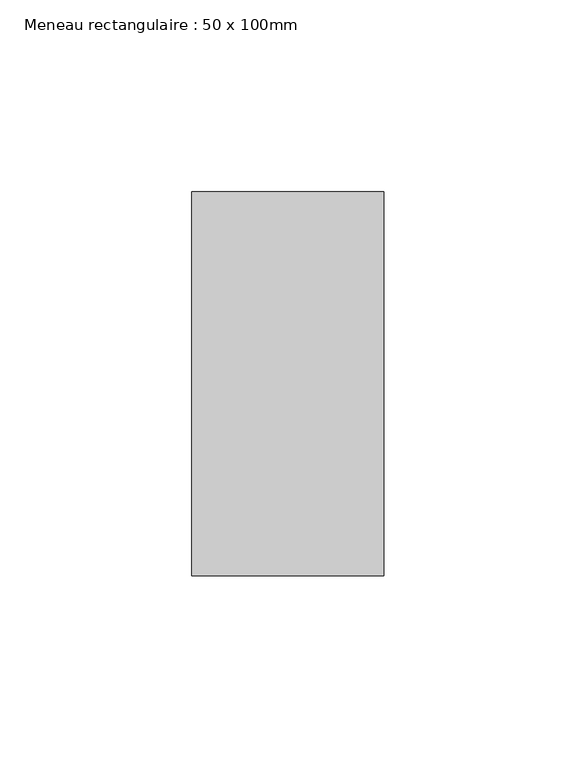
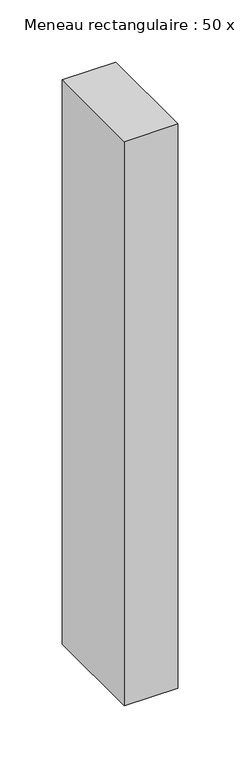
"""IFC4 building model written with IfcOpenShell, lengths in millimetres: member geometry, Meneau rectangulaire : 50 x 100mm."""

import ifcopenshell
import ifcopenshell.guid

model = None  # the IFC model being written
_history = None  # IfcOwnerHistory: only IFC2X3 demands one
_inside = {}  # id of a spatial element -> (the spatial element, [elements in it])
_under = {}  # id of a project, library or spatial element -> (it, [spatial elements below it])
_declared = {}  # id of a project -> (the project, [libraries it declares])
_typed = {}  # id of a type object -> (the type object, [elements of that type])
_made_of = {}  # id of a material, layer set ... -> (it, [elements and type objects made of it])


def new_model(schema):
    """Start an empty IFC model of exactly this schema.

    Asked for "IFC4X3", IfcOpenShell would pick the latest addendum, in which some entities
    have other attributes; the version numbers below select the first issue.
    IFC2X3 requires an IfcOwnerHistory on every rooted entity: one is made here for all.
    """
    global model, _history
    if schema == "IFC4X3":
        model = ifcopenshell.file(schema_version=(4, 3, 0, 0))
    else:
        model = ifcopenshell.file(schema=schema)
    _inside.clear()
    _under.clear()
    _declared.clear()
    _typed.clear()
    _made_of.clear()
    _history = None
    if model.schema == "IFC2X3":
        org = make("IfcOrganization", Name="unknown")
        user = make(
            "IfcPersonAndOrganization",
            ThePerson=make("IfcPerson", FamilyName="unknown"),
            TheOrganization=org,
        )
        app = make(
            "IfcApplication",
            ApplicationDeveloper=org,
            Version="unknown",
            ApplicationFullName="unknown",
            ApplicationIdentifier="unknown",
        )
        _history = make(
            "IfcOwnerHistory",
            OwningUser=user,
            OwningApplication=app,
            ChangeAction="ADDED",
            CreationDate=0,
        )
    return model


def make(cls, **values):
    """One entity of the class cls with the attributes given. An attribute that is None is left unset."""
    return model.create_entity(
        cls, **{name: value for name, value in values.items() if value is not None}
    )


def rooted(cls, **values):
    """An entity with a GlobalId (a new one), such as an element, a storey or a relation."""
    return make(cls, GlobalId=ifcopenshell.guid.new(), OwnerHistory=_history, **values)


def si_unit(unit_type, name, prefix=None):
    """IfcSIUnit, for example si_unit("LENGTHUNIT", "METRE", prefix="MILLI")."""
    return make("IfcSIUnit", UnitType=unit_type, Prefix=prefix, Name=name)


def assignment(units):
    """IfcUnitAssignment: the units of a project."""
    return None if units is None else make("IfcUnitAssignment", Units=units)


def point(xyz):
    """IfcCartesianPoint."""
    return None if xyz is None else make("IfcCartesianPoint", Coordinates=xyz)


def direction(xyz):
    """IfcDirection."""
    return None if xyz is None else make("IfcDirection", DirectionRatios=xyz)


def frame(location, z_axis=None, x_axis=None):
    """IfcAxis2Placement3D, a coordinate frame: its origin and axes. An axis left out is left unset."""
    return make(
        "IfcAxis2Placement3D",
        Location=point(location),
        Axis=direction(z_axis),
        RefDirection=direction(x_axis),
    )


def origin():
    """The frame at (0, 0, 0) with its axes left unset."""
    return frame((0.0, 0.0, 0.0))


def place(relative_to, where):
    """IfcLocalPlacement: puts the frame where relative to a parent placement (None: the world)."""
    return make(
        "IfcLocalPlacement", PlacementRelTo=relative_to, RelativePlacement=where
    )


def context(
    kind, dimensions, precision=None, world=None, true_north=None, identifier=None
):
    """IfcGeometricRepresentationContext, for example the 3D "Model" context."""
    return make(
        "IfcGeometricRepresentationContext",
        ContextIdentifier=identifier,
        ContextType=kind,
        CoordinateSpaceDimension=dimensions,
        Precision=precision,
        WorldCoordinateSystem=world,
        TrueNorth=true_north,
    )


def project(units=None, contexts=None):
    """IfcProject with its units and contexts."""
    return rooted(
        "IfcProject",
        Name="project",
        RepresentationContexts=contexts,
        UnitsInContext=assignment(units),
    )


def spatial(cls, under=None, at=None, **own):
    """A site, building, storey or space (cls), placed at a placement, below another one or the project."""
    s = rooted(cls, ObjectPlacement=at, **own)
    if under is not None:
        _under.setdefault(under.id(), (under, []))[1].append(s)
    return s


def polyline(points):
    """IfcPolyline through the points."""
    return make("IfcPolyline", Points=[point(p) for p in points])


def outline(outer, holes=None, kind="AREA"):
    """IfcArbitraryClosedProfileDef: a profile drawn as a closed curve; with holes, ...WithVoids."""
    if holes is None:
        return make("IfcArbitraryClosedProfileDef", ProfileType=kind, OuterCurve=outer)
    return make(
        "IfcArbitraryProfileDefWithVoids",
        ProfileType=kind,
        OuterCurve=outer,
        InnerCurves=holes,
    )


def extrude(swept, where, along, depth):
    """IfcExtrudedAreaSolid: the profile swept, set in the frame where, extruded along a direction by depth."""
    return make(
        "IfcExtrudedAreaSolid",
        SweptArea=swept,
        Position=where,
        ExtrudedDirection=direction(along),
        Depth=depth,
    )


def shape(context_of_items, identifier, shape_type, items):
    """IfcShapeRepresentation: the items that make up one representation, for example the "Body"."""
    return make(
        "IfcShapeRepresentation",
        ContextOfItems=context_of_items,
        RepresentationIdentifier=identifier,
        RepresentationType=shape_type,
        Items=items,
    )


def source(mapping_origin, context_of_items, identifier, shape_type, items):
    """IfcRepresentationMap: a shape defined once, which mapped items show again and again."""
    return make(
        "IfcRepresentationMap",
        MappingOrigin=mapping_origin,
        MappedRepresentation=shape(context_of_items, identifier, shape_type, items),
    )


def transform(
    local_origin,
    x_axis=None,
    y_axis=None,
    z_axis=None,
    scale=None,
    scale2=None,
    scale3=None,
    uniform=True,
):
    """IfcCartesianTransformationOperator3D, or its non-uniform kind. x_axis, y_axis, z_axis: its Axis1, 2, 3."""
    if uniform:
        return make(
            "IfcCartesianTransformationOperator3D",
            Axis1=direction(x_axis),
            Axis2=direction(y_axis),
            LocalOrigin=point(local_origin),
            Scale=scale,
            Axis3=direction(z_axis),
        )
    return make(
        "IfcCartesianTransformationOperator3DnonUniform",
        Axis1=direction(x_axis),
        Axis2=direction(y_axis),
        LocalOrigin=point(local_origin),
        Scale=scale,
        Axis3=direction(z_axis),
        Scale2=scale2,
        Scale3=scale3,
    )


def mapped(mapping_source, mapping_target):
    """IfcMappedItem: shows the shape of a source again, moved by a transform."""
    return make(
        "IfcMappedItem", MappingSource=mapping_source, MappingTarget=mapping_target
    )


def made_of(thing, what):
    """Note that an element or type object is made of a material, layer set ...; save() writes the relation."""
    if what is not None:
        _made_of.setdefault(what.id(), (what, []))[1].append(thing)
    return thing


def element(
    cls,
    number,
    at=None,
    inside=None,
    cuts=None,
    type_object=None,
    material=None,
    context=None,
    identifier="Body",
    shape_type=None,
    held_by="IfcProductDefinitionShape",
    body=None,
    shapes=None,
    **own,
):
    """One element of the class cls, such as IfcWall. Its Tag is "e" and its number.

    at: its placement. inside: the storey or other place that contains it. cuts: it is an
    opening in that element (IfcRelVoidsElement). A single representation is given by context,
    identifier, shape_type and body (its items); several are given by shapes. held_by: the class
    of the entity that holds the representations. save() writes the other relations.
    """
    e = rooted(cls, Tag="e%d" % number, ObjectPlacement=at, **own)
    if body is not None:
        shapes = [shape(context, identifier, shape_type, body)]
    if shapes is not None:
        e.Representation = make(held_by, Representations=shapes)
    if inside is not None:
        _inside.setdefault(inside.id(), (inside, []))[1].append(e)
    if cuts is not None:
        rooted(
            "IfcRelVoidsElement", RelatingBuildingElement=cuts, RelatedOpeningElement=e
        )
    if type_object is not None:
        _typed.setdefault(type_object.id(), (type_object, []))[1].append(e)
    return made_of(e, material)


def aggregate(whole, parts):
    """IfcRelAggregates: a whole, such as a stair, and the parts it consists of."""
    return rooted("IfcRelAggregates", RelatingObject=whole, RelatedObjects=parts)


def save(model, path):
    """Write the relations noted so far, then the file.

    IfcRelAggregates (storeys below a building ...), IfcRelContainedInSpatialStructure (elements
    in a storey), IfcRelDefinesByType, IfcRelAssociatesMaterial and IfcRelDeclares: one each for
    every whole, place, type object, material and project.
    """
    for whole, parts in _under.values():
        aggregate(whole, parts)
    for where, things in _inside.values():
        rooted(
            "IfcRelContainedInSpatialStructure",
            RelatedElements=things,
            RelatingStructure=where,
        )
    for kind, things in _typed.values():
        rooted("IfcRelDefinesByType", RelatedObjects=things, RelatingType=kind)
    for what, things in _made_of.values():
        rooted("IfcRelAssociatesMaterial", RelatedObjects=things, RelatingMaterial=what)
    for by, libraries in _declared.values():
        rooted("IfcRelDeclares", RelatingContext=by, RelatedDefinitions=libraries)
    model.write(path)


def meneau_rectangulaire_50_x_100mm_1a8e3824(model_context):
    return source(origin(), model_context, "Body", "SweptSolid", [
        extrude(outline(polyline([(0.0, 50.0), (0.0, -50.0), (-50.0, -50.0), (-50.0, 50.0), (0.0, 50.0)])), frame((0.0, 0.0, -554.9294859), z_axis=(0.0, 0.0, 1.0), x_axis=(1.0, 0.0, 0.0)), (0.0, 0.0, 1.0), 554.9294859),
    ])


if __name__ == "__main__":
    model = new_model("IFC4")
    model_context = context("Model", 3, world=origin())
    ifc_project = project(units=[si_unit("LENGTHUNIT", "METRE", prefix="MILLI")], contexts=[model_context])
    site = spatial("IfcSite", under=ifc_project)
    building = spatial("IfcBuilding", under=site)
    placement = place(None, origin())
    meneau_rectangulaire_50_x_100mm_shape = meneau_rectangulaire_50_x_100mm_1a8e3824(model_context)
    element("IfcMember", 1, ObjectType="Meneau rectangulaire : 50 x 100mm", at=placement, inside=building, context=model_context, shape_type="MappedRepresentation", body=[
        mapped(meneau_rectangulaire_50_x_100mm_shape, transform((0.0, 0.0, 0.0), x_axis=(1.0, 0.0, 0.0), y_axis=(0.0, 1.0, 0.0), z_axis=(0.0, 0.0, 1.0))),
    ])
    save(model, "model.ifc")
